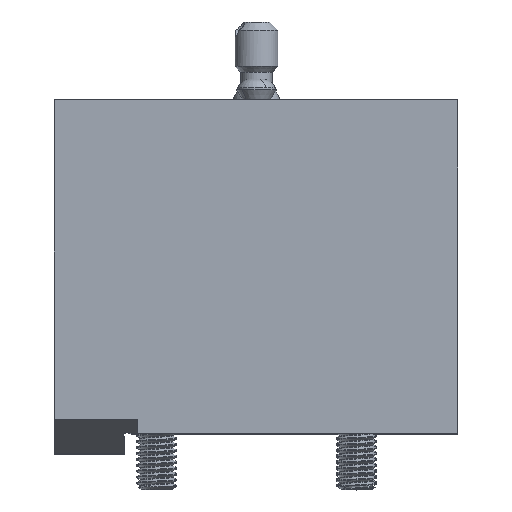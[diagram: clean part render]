
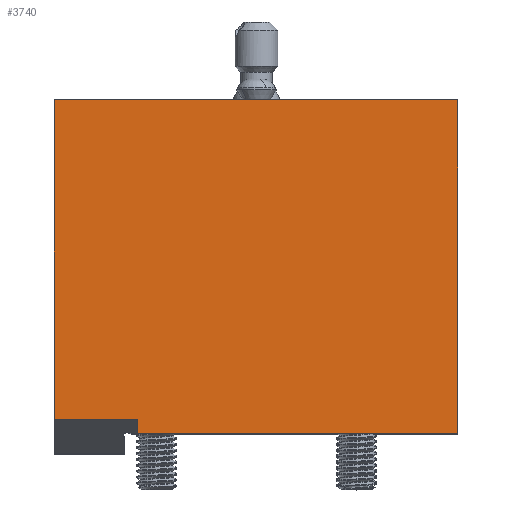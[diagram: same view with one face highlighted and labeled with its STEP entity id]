
A CAD part, top view. The second image highlights one B-rep face of the part: STEP entity #3740.
In plain terms, the highlighted planar face has unit normal (0, 0, 1).
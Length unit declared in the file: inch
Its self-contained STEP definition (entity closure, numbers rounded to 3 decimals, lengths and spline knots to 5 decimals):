
#77 = DIRECTION ( 'NONE',  ( 0., 1., 0. ) ) ;
#886 = ORIENTED_EDGE ( 'NONE', *, *, #16192, .F. ) ;
#1114 = CARTESIAN_POINT ( 'NONE',  ( 3.315, 3.325, 1.77 ) ) ;
#1163 = EDGE_LOOP ( 'NONE', ( #16392, #19729, #12659, #25700, #886, #11848 ) ) ;
#1461 = VERTEX_POINT ( 'NONE', #9600 ) ;
#1668 = DIRECTION ( 'NONE',  ( 0., -1., 0. ) ) ;
#1681 = VERTEX_POINT ( 'NONE', #24945 ) ;
#3357 = EDGE_CURVE ( 'NONE', #8449, #6979, #16606, .T. ) ;
#3740 = ADVANCED_FACE ( 'NONE', ( #18209 ), #22668, .F. ) ;
#3770 = VECTOR ( 'NONE', #13769, 39.37008 ) ;
#3883 = DIRECTION ( 'NONE',  ( 0., 0., -1. ) ) ;
#5434 = CARTESIAN_POINT ( 'NONE',  ( 0.125, 0.14401, 1.77 ) ) ;
#5765 = VECTOR ( 'NONE', #13761, 39.37008 ) ;
#6914 = VERTEX_POINT ( 'NONE', #1114 ) ;
#6979 = VERTEX_POINT ( 'NONE', #13832 ) ;
#7761 = EDGE_CURVE ( 'NONE', #6979, #6914, #25598, .T. ) ;
#8087 = EDGE_CURVE ( 'NONE', #1461, #1681, #24097, .T. ) ;
#8449 = VERTEX_POINT ( 'NONE', #19153 ) ;
#9265 = LINE ( 'NONE', #9393, #3770 ) ;
#9393 = CARTESIAN_POINT ( 'NONE',  ( 3.315, 0., 1.77 ) ) ;
#9600 = CARTESIAN_POINT ( 'NONE',  ( 0.125, 0., 1.77 ) ) ;
#11446 = DIRECTION ( 'NONE',  ( 1., 0., 0. ) ) ;
#11848 = ORIENTED_EDGE ( 'NONE', *, *, #7761, .F. ) ;
#11936 = LINE ( 'NONE', #16582, #14455 ) ;
#12659 = ORIENTED_EDGE ( 'NONE', *, *, #8087, .F. ) ;
#13375 = CARTESIAN_POINT ( 'NONE',  ( 0.125, 0.14401, 1.77 ) ) ;
#13761 = DIRECTION ( 'NONE',  ( 0., 1., 0. ) ) ;
#13769 = DIRECTION ( 'NONE',  ( -1., 0., 0. ) ) ;
#13832 = CARTESIAN_POINT ( 'NONE',  ( -0.705, 3.325, 1.77 ) ) ;
#14455 = VECTOR ( 'NONE', #1668, 39.37008 ) ;
#16192 = EDGE_CURVE ( 'NONE', #6914, #26410, #11936, .T. ) ;
#16392 = ORIENTED_EDGE ( 'NONE', *, *, #3357, .F. ) ;
#16582 = CARTESIAN_POINT ( 'NONE',  ( 3.315, 3.325, 1.77 ) ) ;
#16606 = LINE ( 'NONE', #24479, #24218 ) ;
#18209 = FACE_OUTER_BOUND ( 'NONE', #1163, .T. ) ;
#18460 = EDGE_CURVE ( 'NONE', #1681, #8449, #25866, .T. ) ;
#19153 = CARTESIAN_POINT ( 'NONE',  ( -0.705, 0.14401, 1.77 ) ) ;
#19352 = AXIS2_PLACEMENT_3D ( 'NONE', #24451, #3883, #20513 ) ;
#19729 = ORIENTED_EDGE ( 'NONE', *, *, #18460, .F. ) ;
#19791 = EDGE_CURVE ( 'NONE', #26410, #1461, #9265, .T. ) ;
#20513 = DIRECTION ( 'NONE',  ( -1., 0., 0. ) ) ;
#22668 = PLANE ( 'NONE',  #19352 ) ;
#23722 = CARTESIAN_POINT ( 'NONE',  ( 3.315, 0., 1.77 ) ) ;
#24097 = LINE ( 'NONE', #5434, #5765 ) ;
#24218 = VECTOR ( 'NONE', #77, 39.37008 ) ;
#24451 = CARTESIAN_POINT ( 'NONE',  ( -0.705, 0., 1.77 ) ) ;
#24479 = CARTESIAN_POINT ( 'NONE',  ( -0.705, -0.2, 1.77 ) ) ;
#24945 = CARTESIAN_POINT ( 'NONE',  ( 0.125, 0.14401, 1.77 ) ) ;
#25168 = VECTOR ( 'NONE', #11446, 39.37008 ) ;
#25598 = LINE ( 'NONE', #25737, #25168 ) ;
#25600 = DIRECTION ( 'NONE',  ( -1., 0., 0. ) ) ;
#25700 = ORIENTED_EDGE ( 'NONE', *, *, #19791, .F. ) ;
#25737 = CARTESIAN_POINT ( 'NONE',  ( -0.705, 3.325, 1.77 ) ) ;
#25866 = LINE ( 'NONE', #13375, #26328 ) ;
#26328 = VECTOR ( 'NONE', #25600, 39.37008 ) ;
#26410 = VERTEX_POINT ( 'NONE', #23722 ) ;
